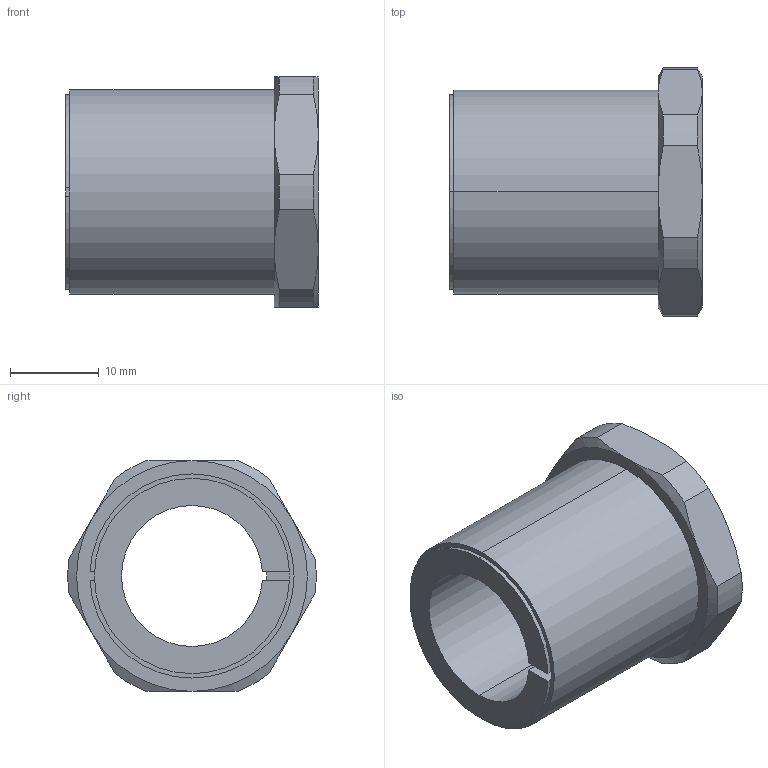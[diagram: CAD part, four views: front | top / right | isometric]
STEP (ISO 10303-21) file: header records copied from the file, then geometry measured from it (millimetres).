
FILE_DESCRIPTION (( 'STEP AP203' ), '1' );
FILE_NAME ('KBS 57 - 15,88 x 23.STEP', '2015-07-05T18:34:28', ( '' ), ( '' ), 'SwSTEP 2.0', 'SolidWorks 2010', '' );
FILE_SCHEMA (( 'CONFIG_CONTROL_DESIGN' ));
Length unit declared in the file: millimetre
Products named in the file (1): KBS 57 - 15,88 x 23
Bounding box: 28.5 x 27.97 x 26 mm (x, y, z)
Volume: 6839.7 mm3; surface area: 4459 mm2
Topology: 1 solids, 1 shells, 47 faces, 118 edges, 74 vertices
Faces by surface type: cylinder 16, plane 16, cone 15
Entity records: 1557 total; most frequent: CARTESIAN_POINT 356, DIRECTION 240, ORIENTED_EDGE 236, EDGE_CURVE 118, AXIS2_PLACEMENT_3D 100, VERTEX_POINT 74, CIRCLE 52, EDGE_LOOP 50
